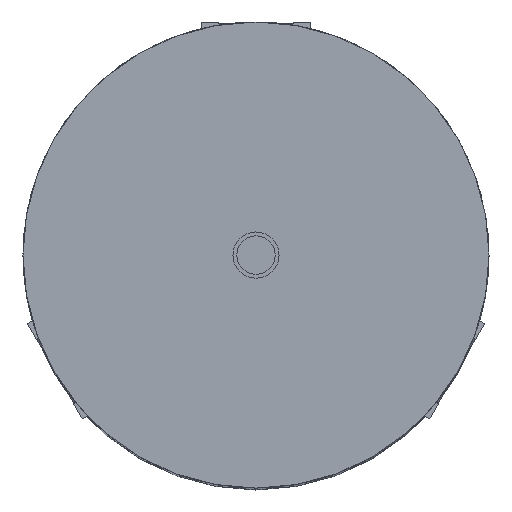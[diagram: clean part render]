
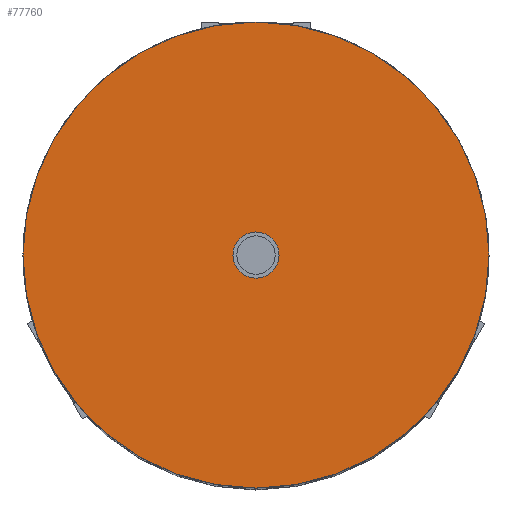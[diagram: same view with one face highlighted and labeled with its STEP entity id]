
A CAD part, top view. The second image highlights one B-rep face of the part: STEP entity #77760.
In plain terms, the highlighted planar face has unit normal (0, 0, 1).
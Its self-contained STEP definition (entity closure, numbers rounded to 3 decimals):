
#74124 = VERTEX_POINT('',#74125);
#74125 = CARTESIAN_POINT('',(48.,0.,229.));
#74134 = CYLINDRICAL_SURFACE('',#74135,48.);
#74135 = AXIS2_PLACEMENT_3D('',#74136,#74137,#74138);
#74136 = CARTESIAN_POINT('',(0.,0.,221.3));
#74137 = DIRECTION('',(-0.,-0.,-1.));
#74138 = DIRECTION('',(1.,0.,0.));
#74153 = EDGE_CURVE('',#74124,#74124,#74154,.T.);
#74154 = SURFACE_CURVE('',#74155,(#74160,#74167),.PCURVE_S1.);
#74155 = CIRCLE('',#74156,48.);
#74156 = AXIS2_PLACEMENT_3D('',#74157,#74158,#74159);
#74157 = CARTESIAN_POINT('',(0.,0.,229.));
#74158 = DIRECTION('',(0.,0.,1.));
#74159 = DIRECTION('',(1.,0.,0.));
#74160 = PCURVE('',#74134,#74161);
#74161 = DEFINITIONAL_REPRESENTATION('',(#74162),#74166);
#74162 = LINE('',#74163,#74164);
#74163 = CARTESIAN_POINT('',(-0.,-7.7));
#74164 = VECTOR('',#74165,1.);
#74165 = DIRECTION('',(-1.,0.));
#74166 = ( GEOMETRIC_REPRESENTATION_CONTEXT(2) 
PARAMETRIC_REPRESENTATION_CONTEXT() REPRESENTATION_CONTEXT('2D SPACE',''
  ) );
#74167 = PCURVE('',#74168,#74173);
#74168 = PLANE('',#74169);
#74169 = AXIS2_PLACEMENT_3D('',#74170,#74171,#74172);
#74170 = CARTESIAN_POINT('',(0.,0.,
    229.));
#74171 = DIRECTION('',(0.,0.,1.));
#74172 = DIRECTION('',(1.,0.,-0.));
#74173 = DEFINITIONAL_REPRESENTATION('',(#74174),#74178);
#74174 = CIRCLE('',#74175,48.);
#74175 = AXIS2_PLACEMENT_2D('',#74176,#74177);
#74176 = CARTESIAN_POINT('',(0.,0.));
#74177 = DIRECTION('',(1.,0.));
#74178 = ( GEOMETRIC_REPRESENTATION_CONTEXT(2) 
PARAMETRIC_REPRESENTATION_CONTEXT() REPRESENTATION_CONTEXT('2D SPACE',''
  ) );
#77760 = ADVANCED_FACE('',(#77761,#77764),#74168,.T.);
#77761 = FACE_BOUND('',#77762,.T.);
#77762 = EDGE_LOOP('',(#77763));
#77763 = ORIENTED_EDGE('',*,*,#74153,.T.);
#77764 = FACE_BOUND('',#77765,.T.);
#77765 = EDGE_LOOP('',(#77766));
#77766 = ORIENTED_EDGE('',*,*,#77767,.T.);
#77767 = EDGE_CURVE('',#77768,#77768,#77770,.T.);
#77768 = VERTEX_POINT('',#77769);
#77769 = CARTESIAN_POINT('',(4.75,0.,229.));
#77770 = SURFACE_CURVE('',#77771,(#77776,#77787),.PCURVE_S1.);
#77771 = CIRCLE('',#77772,4.75);
#77772 = AXIS2_PLACEMENT_3D('',#77773,#77774,#77775);
#77773 = CARTESIAN_POINT('',(0.,0.,229.));
#77774 = DIRECTION('',(0.,0.,-1.));
#77775 = DIRECTION('',(1.,0.,0.));
#77776 = PCURVE('',#74168,#77777);
#77777 = DEFINITIONAL_REPRESENTATION('',(#77778),#77786);
#77778 = ( BOUNDED_CURVE() B_SPLINE_CURVE(2,(#77779,#77780,#77781,#77782
    ,#77783,#77784,#77785),.UNSPECIFIED.,.T.,.F.) 
B_SPLINE_CURVE_WITH_KNOTS((1,2,2,2,2,1),(-2.094,0.,
    2.094,4.189,6.283,8.378),
.UNSPECIFIED.) CURVE() GEOMETRIC_REPRESENTATION_ITEM() 
RATIONAL_B_SPLINE_CURVE((1.,0.5,1.,0.5,1.,0.5,1.)) REPRESENTATION_ITEM(
  '') );
#77779 = CARTESIAN_POINT('',(4.75,0.));
#77780 = CARTESIAN_POINT('',(4.75,-8.227));
#77781 = CARTESIAN_POINT('',(-2.375,-4.114));
#77782 = CARTESIAN_POINT('',(-9.5,0.));
#77783 = CARTESIAN_POINT('',(-2.375,4.114));
#77784 = CARTESIAN_POINT('',(4.75,8.227));
#77785 = CARTESIAN_POINT('',(4.75,0.));
#77786 = ( GEOMETRIC_REPRESENTATION_CONTEXT(2) 
PARAMETRIC_REPRESENTATION_CONTEXT() REPRESENTATION_CONTEXT('2D SPACE',''
  ) );
#77787 = PCURVE('',#77788,#77793);
#77788 = CYLINDRICAL_SURFACE('',#77789,4.75);
#77789 = AXIS2_PLACEMENT_3D('',#77790,#77791,#77792);
#77790 = CARTESIAN_POINT('',(0.,0.,225.5));
#77791 = DIRECTION('',(-0.,-0.,-1.));
#77792 = DIRECTION('',(1.,0.,0.));
#77793 = DEFINITIONAL_REPRESENTATION('',(#77794),#77798);
#77794 = LINE('',#77795,#77796);
#77795 = CARTESIAN_POINT('',(-6.283,-3.5));
#77796 = VECTOR('',#77797,1.);
#77797 = DIRECTION('',(1.,-0.));
#77798 = ( GEOMETRIC_REPRESENTATION_CONTEXT(2) 
PARAMETRIC_REPRESENTATION_CONTEXT() REPRESENTATION_CONTEXT('2D SPACE',''
  ) );
